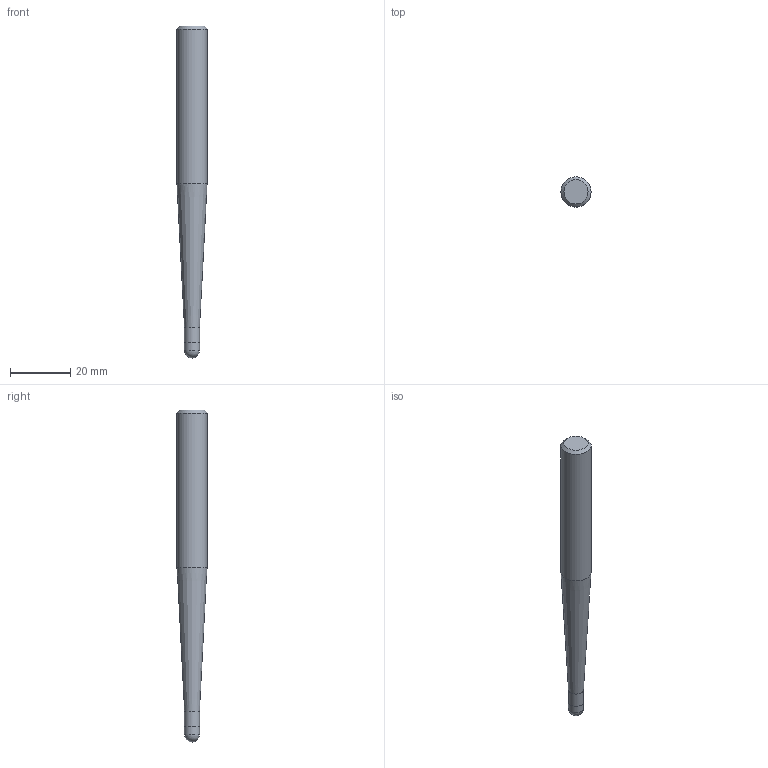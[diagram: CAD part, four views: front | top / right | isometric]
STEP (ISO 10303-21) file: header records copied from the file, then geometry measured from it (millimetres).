
FILE_DESCRIPTION((''),'2;1');
FILE_NAME('C:\Users\nsx150\AppData\Local\Temp\Mastercam 2021\SNAKH10GOD\TEMP.step','2021-10-21T13:33:56',(''),(''),'STEP Write','Mastercam 2021 ... CNC Software, Inc.','');
FILE_SCHEMA(('AUTOMOTIVE_DESIGN'));
Length unit declared in the file: millimetre
Products named in the file (1): None
Bounding box: 10 x 10 x 110 mm (x, y, z)
Volume: 6452.6 mm3; surface area: 3021.7 mm2
Topology: 2 solids, 2 shells, 9 faces, 14 edges, 8 vertices
Faces by surface type: plane 3, cylinder 3, cone 2, sphere 1
Full cylindrical faces by diameter (mm): 4.98 x1, 5 x1, 10 x1
Entity records: 211 total; most frequent: DIRECTION 36, CARTESIAN_POINT 25, AXIS2_PLACEMENT_3D 18, ORIENTED_EDGE 14, EDGE_LOOP 14, STYLED_ITEM 12, ADVANCED_FACE 9, FACE_BOUND 8
